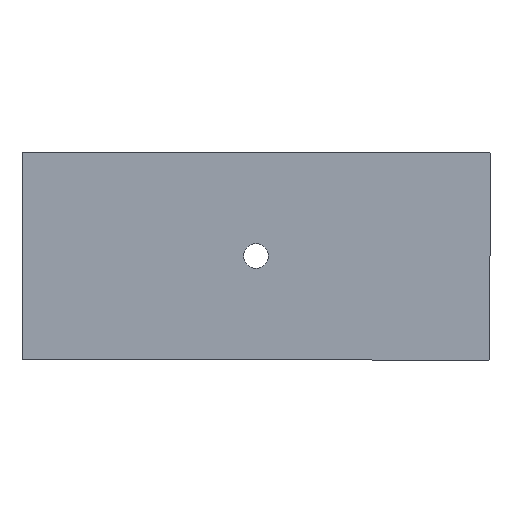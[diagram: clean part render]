
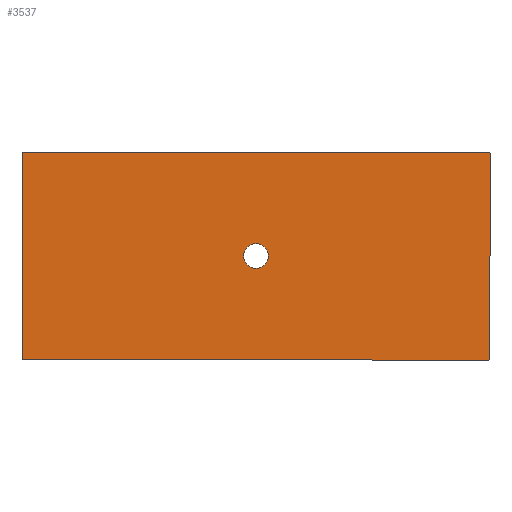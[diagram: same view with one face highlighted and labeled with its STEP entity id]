
A CAD part, front view. The second image highlights one B-rep face of the part: STEP entity #3537.
In plain terms, the highlighted planar face has unit normal (0, -1, 0).
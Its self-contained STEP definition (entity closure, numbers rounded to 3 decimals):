
#22 = LINE ( 'NONE', #1080, #1180 ) ;
#28 = EDGE_CURVE ( 'NONE', #158, #58, #102, .T. ) ;
#58 = VERTEX_POINT ( 'NONE', #1716 ) ;
#67 = VERTEX_POINT ( 'NONE', #2354 ) ;
#102 = LINE ( 'NONE', #421, #3009 ) ;
#139 = EDGE_CURVE ( 'NONE', #2986, #3678, #22, .T. ) ;
#158 = VERTEX_POINT ( 'NONE', #3283 ) ;
#196 = CARTESIAN_POINT ( 'NONE',  ( 895.001, 0., -400. ) ) ;
#202 = CARTESIAN_POINT ( 'NONE',  ( 0., 0., -47.5 ) ) ;
#216 = EDGE_CURVE ( 'NONE', #3465, #3465, #848, .T. ) ;
#343 = DIRECTION ( 'NONE',  ( 0., 0., -1. ) ) ;
#381 = DIRECTION ( 'NONE',  ( 0., -1., 0. ) ) ;
#421 = CARTESIAN_POINT ( 'NONE',  ( 900., 0., 0. ) ) ;
#457 = PLANE ( 'NONE',  #2297 ) ;
#458 = CARTESIAN_POINT ( 'NONE',  ( -895.001, 0., -400. ) ) ;
#504 = CARTESIAN_POINT ( 'NONE',  ( -900., 0., -395.001 ) ) ;
#712 = DIRECTION ( 'NONE',  ( -1., 0., 0. ) ) ;
#757 = CARTESIAN_POINT ( 'NONE',  ( 900., 0., -397.929 ) ) ;
#778 = CARTESIAN_POINT ( 'NONE',  ( -900., 0., -397.929 ) ) ;
#819 = VERTEX_POINT ( 'NONE', #196 ) ;
#844 = EDGE_CURVE ( 'NONE', #67, #3767, #4014, .T. ) ;
#846 =( BOUNDED_CURVE ( )  B_SPLINE_CURVE ( 3, ( #3629, #2322, #1359, #3651 ),
 .UNSPECIFIED., .F., .T. ) 
 B_SPLINE_CURVE_WITH_KNOTS ( ( 4, 4 ),
 ( 5.498, 7.068 ),
 .UNSPECIFIED. ) 
 CURVE ( )  GEOMETRIC_REPRESENTATION_ITEM ( )  RATIONAL_B_SPLINE_CURVE ( ( 1., 0.805, 0.805, 1. ) ) 
 REPRESENTATION_ITEM ( '' )  );
#848 = CIRCLE ( 'NONE', #3554, 47.5 ) ;
#879 = ORIENTED_EDGE ( 'NONE', *, *, #2532, .F. ) ;
#1057 = DIRECTION ( 'NONE',  ( 0., 0., -1. ) ) ;
#1080 = CARTESIAN_POINT ( 'NONE',  ( -900., 0., 0. ) ) ;
#1138 = CARTESIAN_POINT ( 'NONE',  ( -897.929, 0., -400. ) ) ;
#1180 = VECTOR ( 'NONE', #1994, 1000. ) ;
#1259 = CARTESIAN_POINT ( 'NONE',  ( -897.929, 0., 400. ) ) ;
#1359 = CARTESIAN_POINT ( 'NONE',  ( 900., 0., 397.929 ) ) ;
#1405 = VERTEX_POINT ( 'NONE', #2260 ) ;
#1431 = VECTOR ( 'NONE', #3082, 1000. ) ;
#1716 = CARTESIAN_POINT ( 'NONE',  ( 900., 0., -395.001 ) ) ;
#1843 = CARTESIAN_POINT ( 'NONE',  ( -900., 0., -395.001 ) ) ;
#1847 =( BOUNDED_CURVE ( )  B_SPLINE_CURVE ( 3, ( #2121, #757, #2439, #2393 ),
 .UNSPECIFIED., .F., .T. ) 
 B_SPLINE_CURVE_WITH_KNOTS ( ( 4, 4 ),
 ( 5.498, 7.068 ),
 .UNSPECIFIED. ) 
 CURVE ( )  GEOMETRIC_REPRESENTATION_ITEM ( )  RATIONAL_B_SPLINE_CURVE ( ( 1., 0.805, 0.805, 1. ) ) 
 REPRESENTATION_ITEM ( '' )  );
#1957 = ORIENTED_EDGE ( 'NONE', *, *, #844, .F. ) ;
#1994 = DIRECTION ( 'NONE',  ( 0., 0., 1. ) ) ;
#2003 =( BOUNDED_CURVE ( )  B_SPLINE_CURVE ( 3, ( #2245, #4191, #1259, #2857 ),
 .UNSPECIFIED., .F., .T. ) 
 B_SPLINE_CURVE_WITH_KNOTS ( ( 4, 4 ),
 ( 5.498, 7.068 ),
 .UNSPECIFIED. ) 
 CURVE ( )  GEOMETRIC_REPRESENTATION_ITEM ( )  RATIONAL_B_SPLINE_CURVE ( ( 1., 0.805, 0.805, 1. ) ) 
 REPRESENTATION_ITEM ( '' )  );
#2027 = CARTESIAN_POINT ( 'NONE',  ( 895.001, 0., 400. ) ) ;
#2047 = EDGE_CURVE ( 'NONE', #3678, #67, #2003, .T. ) ;
#2121 = CARTESIAN_POINT ( 'NONE',  ( 900., 0., -395.001 ) ) ;
#2245 = CARTESIAN_POINT ( 'NONE',  ( -900., 0., 395.001 ) ) ;
#2260 = CARTESIAN_POINT ( 'NONE',  ( -895.001, 0., -400. ) ) ;
#2279 = ORIENTED_EDGE ( 'NONE', *, *, #216, .F. ) ;
#2297 = AXIS2_PLACEMENT_3D ( 'NONE', #3656, #3023, #2438 ) ;
#2322 = CARTESIAN_POINT ( 'NONE',  ( 897.929, 0., 400. ) ) ;
#2354 = CARTESIAN_POINT ( 'NONE',  ( -895.001, 0., 400. ) ) ;
#2368 = FACE_BOUND ( 'NONE', #2831, .T. ) ;
#2393 = CARTESIAN_POINT ( 'NONE',  ( 895.001, 0., -400. ) ) ;
#2438 = DIRECTION ( 'NONE',  ( 0., 0., 1. ) ) ;
#2439 = CARTESIAN_POINT ( 'NONE',  ( 897.929, 0., -400. ) ) ;
#2532 = EDGE_CURVE ( 'NONE', #3767, #158, #846, .T. ) ;
#2683 = ORIENTED_EDGE ( 'NONE', *, *, #2047, .F. ) ;
#2831 = EDGE_LOOP ( 'NONE', ( #2279 ) ) ;
#2857 = CARTESIAN_POINT ( 'NONE',  ( -895.001, 0., 400. ) ) ;
#2875 =( BOUNDED_CURVE ( )  B_SPLINE_CURVE ( 3, ( #458, #1138, #778, #504 ),
 .UNSPECIFIED., .F., .T. ) 
 B_SPLINE_CURVE_WITH_KNOTS ( ( 4, 4 ),
 ( 5.498, 7.068 ),
 .UNSPECIFIED. ) 
 CURVE ( )  GEOMETRIC_REPRESENTATION_ITEM ( )  RATIONAL_B_SPLINE_CURVE ( ( 1., 0.805, 0.805, 1. ) ) 
 REPRESENTATION_ITEM ( '' )  );
#2986 = VERTEX_POINT ( 'NONE', #1843 ) ;
#3009 = VECTOR ( 'NONE', #1057, 1000. ) ;
#3023 = DIRECTION ( 'NONE',  ( 0., 1., 0. ) ) ;
#3082 = DIRECTION ( 'NONE',  ( 1., 0., 0. ) ) ;
#3089 = FACE_OUTER_BOUND ( 'NONE', #4108, .T. ) ;
#3169 = EDGE_CURVE ( 'NONE', #819, #1405, #3614, .T. ) ;
#3240 = CARTESIAN_POINT ( 'NONE',  ( 0., 0., -400. ) ) ;
#3247 = CARTESIAN_POINT ( 'NONE',  ( 0., 0., 0. ) ) ;
#3283 = CARTESIAN_POINT ( 'NONE',  ( 900., 0., 395.001 ) ) ;
#3382 = ORIENTED_EDGE ( 'NONE', *, *, #28, .F. ) ;
#3391 = VECTOR ( 'NONE', #712, 1000. ) ;
#3465 = VERTEX_POINT ( 'NONE', #202 ) ;
#3537 = ADVANCED_FACE ( 'NONE', ( #3089, #2368 ), #457, .F. ) ;
#3554 = AXIS2_PLACEMENT_3D ( 'NONE', #3247, #381, #343 ) ;
#3603 = ORIENTED_EDGE ( 'NONE', *, *, #3661, .F. ) ;
#3614 = LINE ( 'NONE', #3240, #3391 ) ;
#3621 = ORIENTED_EDGE ( 'NONE', *, *, #3792, .F. ) ;
#3629 = CARTESIAN_POINT ( 'NONE',  ( 895.001, 0., 400. ) ) ;
#3651 = CARTESIAN_POINT ( 'NONE',  ( 900., 0., 395.001 ) ) ;
#3656 = CARTESIAN_POINT ( 'NONE',  ( 0., 0., 0. ) ) ;
#3661 = EDGE_CURVE ( 'NONE', #58, #819, #1847, .T. ) ;
#3678 = VERTEX_POINT ( 'NONE', #4048 ) ;
#3717 = CARTESIAN_POINT ( 'NONE',  ( 0., 0., 400. ) ) ;
#3724 = ORIENTED_EDGE ( 'NONE', *, *, #139, .F. ) ;
#3767 = VERTEX_POINT ( 'NONE', #2027 ) ;
#3792 = EDGE_CURVE ( 'NONE', #1405, #2986, #2875, .T. ) ;
#4014 = LINE ( 'NONE', #3717, #1431 ) ;
#4048 = CARTESIAN_POINT ( 'NONE',  ( -900., 0., 395.001 ) ) ;
#4086 = ORIENTED_EDGE ( 'NONE', *, *, #3169, .F. ) ;
#4108 = EDGE_LOOP ( 'NONE', ( #3603, #3382, #879, #1957, #2683, #3724, #3621, #4086 ) ) ;
#4191 = CARTESIAN_POINT ( 'NONE',  ( -900., 0., 397.929 ) ) ;
